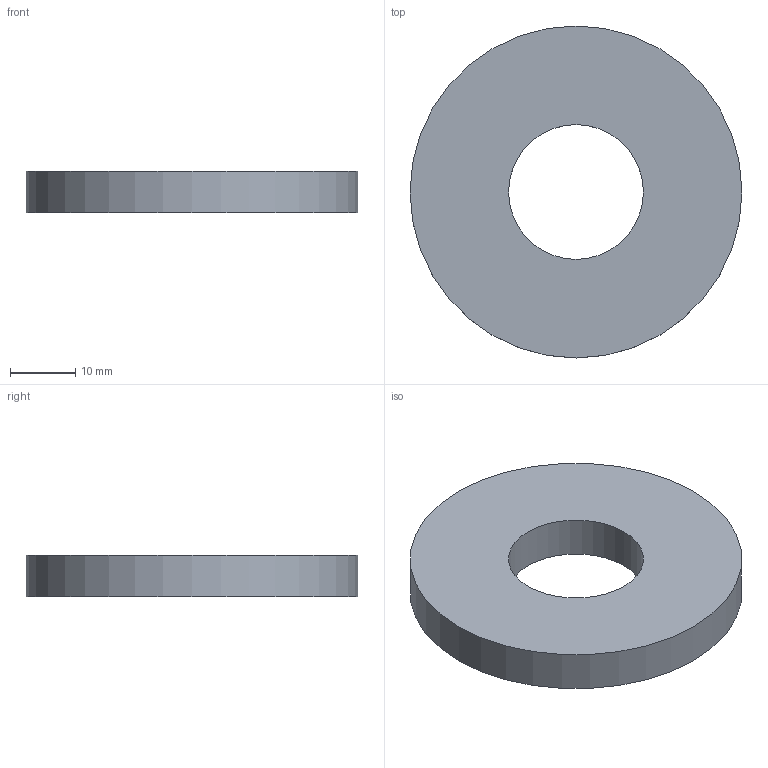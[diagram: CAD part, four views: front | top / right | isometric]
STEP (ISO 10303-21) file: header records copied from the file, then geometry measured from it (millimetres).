
FILE_DESCRIPTION(/* description */ (''),/* implementation_level */ '2;1');
FILE_NAME(/* name */ 'C:\001_Work\Designs\HLW\HLW-0750.stp',/* time_stamp */ '2015-09-04T08:36:35-04:00',/* author */ ('rramoutar'),/* organization */ ('Mason Industries Inc.'),/* preprocessor_version */ 'ST-DEVELOPER v15.6',/* originating_system */ 'Autodesk Inventor 2015',/* authorisation */ '');
FILE_SCHEMA (('AUTOMOTIVE_DESIGN { 1 0 10303 214 3 1 1 }'));
Length unit declared in the file: inch
Products named in the file (1): HLW-0750
Bounding box: 50.8 x 50.8 x 6.35 mm (x, y, z)
Volume: 10746.3 mm3; surface area: 4809.8 mm2
Topology: 1 solids, 1 shells, 4 faces, 6 edges, 4 vertices
Faces by surface type: cylinder 2, plane 2
Full cylindrical faces by diameter (mm): 20.637 x1, 50.8 x1
Entity records: 114 total; most frequent: DIRECTION 18, CARTESIAN_POINT 13, AXIS2_PLACEMENT_3D 9, EDGE_LOOP 8, ORIENTED_EDGE 8, FACE_BOUND 4, FACE_OUTER_BOUND 4, CIRCLE 4
